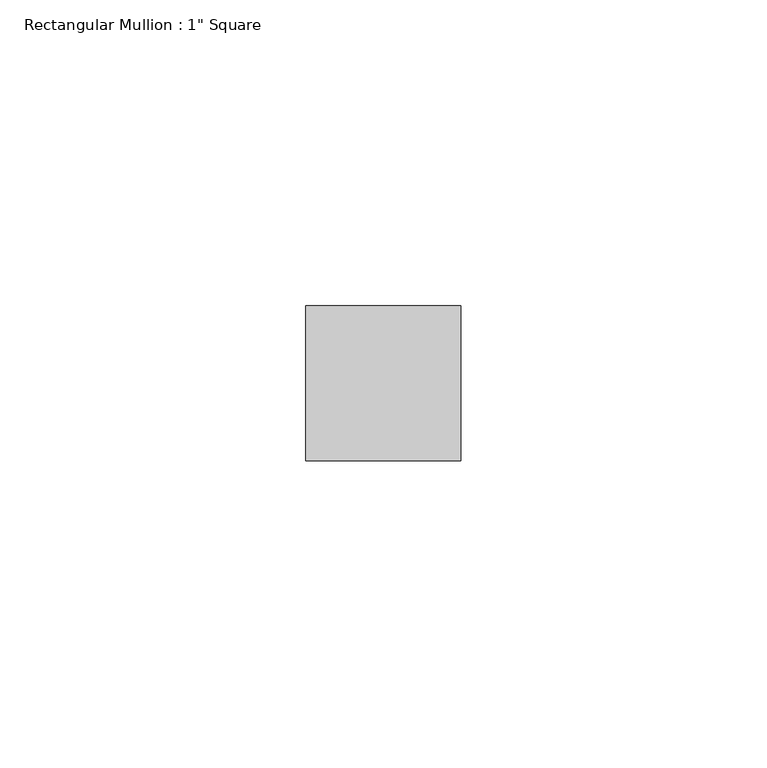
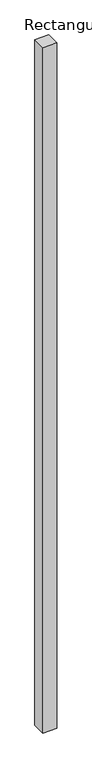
"""IFC4 building model written with IfcOpenShell, lengths in millimetres: member geometry."""

from ifc_helpers import new_model, si_unit, frame, origin, place, context, project, spatial, polyline, outline, extrude, source, transform, mapped, element, save


def member_f15ee7b7(model_context):
    return source(origin(), model_context, "Body", "SweptSolid", [
        extrude(outline(polyline([(0.0, 12.7), (0.0, -12.7), (-25.4, -12.7), (-25.4, 12.7), (0.0, 12.7)])), frame((0.0, 0.0, -1315.4853699), z_axis=(0.0, 0.0, 1.0), x_axis=(1.0, 0.0, 0.0)), (0.0, 0.0, 1.0), 1315.4853699),
    ])


if __name__ == "__main__":
    model = new_model("IFC4")
    model_context = context("Model", 3, world=origin())
    ifc_project = project(units=[si_unit("LENGTHUNIT", "METRE", prefix="MILLI")], contexts=[model_context])
    site = spatial("IfcSite", under=ifc_project)
    building = spatial("IfcBuilding", under=site)
    placement = place(None, origin())
    member_shape = member_f15ee7b7(model_context)
    element("IfcMember", 1, ObjectType="Rectangular Mullion : 1\" Square", at=placement, inside=building, context=model_context, shape_type="MappedRepresentation", body=[
        mapped(member_shape, transform((0.0, 0.0, 0.0), x_axis=(1.0, 0.0, 0.0), y_axis=(0.0, 1.0, 0.0), z_axis=(0.0, 0.0, 1.0))),
    ])
    save(model, "model.ifc")
